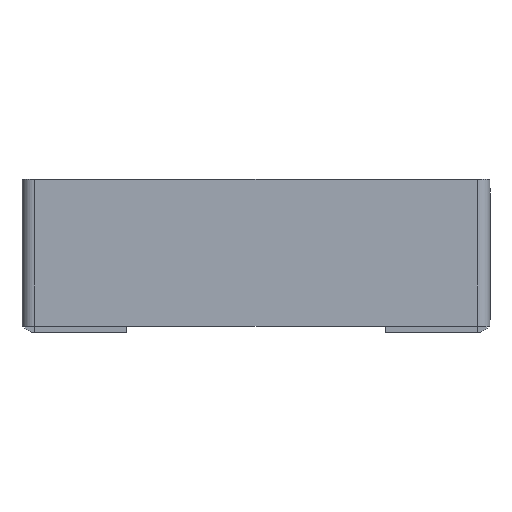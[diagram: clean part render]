
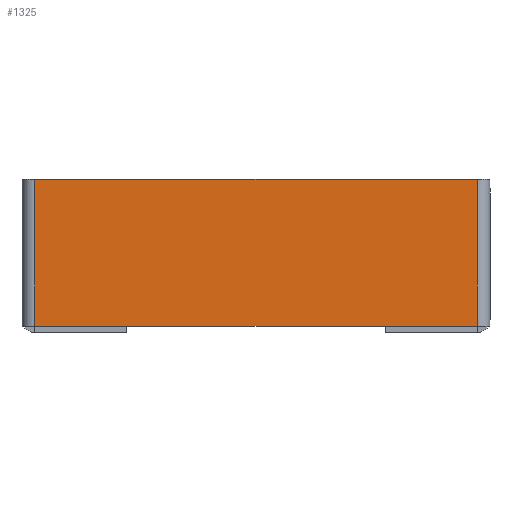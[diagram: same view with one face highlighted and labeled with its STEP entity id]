
A CAD part, front view. The second image highlights one B-rep face of the part: STEP entity #1325.
In plain terms, the highlighted planar face has unit normal (0, -1, 0).
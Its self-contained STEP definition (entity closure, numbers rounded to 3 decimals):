
#133 = VECTOR ( 'NONE', #5694, 1000. ) ;
#385 = DIRECTION ( 'NONE',  ( 0., 0., 1. ) ) ;
#704 = CARTESIAN_POINT ( 'NONE',  ( 87.5, -2.5, -58. ) ) ;
#949 = ORIENTED_EDGE ( 'NONE', *, *, #6922, .T. ) ;
#1174 = VECTOR ( 'NONE', #8027, 1000. ) ;
#1325 = ADVANCED_FACE ( 'NONE', ( #6412 ), #7526, .F. ) ;
#1498 = CARTESIAN_POINT ( 'NONE',  ( -87.5, -2.5, 0. ) ) ;
#1581 = VECTOR ( 'NONE', #7580, 1000. ) ;
#1736 = ORIENTED_EDGE ( 'NONE', *, *, #4518, .T. ) ;
#1739 = CARTESIAN_POINT ( 'NONE',  ( -90., -2.5, -58. ) ) ;
#2019 = CARTESIAN_POINT ( 'NONE',  ( 87.5, -2.5, 0. ) ) ;
#2168 = VERTEX_POINT ( 'NONE', #704 ) ;
#3023 = VECTOR ( 'NONE', #6616, 1000. ) ;
#3197 = CARTESIAN_POINT ( 'NONE',  ( -87.5, -2.5, 0. ) ) ;
#3214 = VERTEX_POINT ( 'NONE', #4897 ) ;
#3215 = LINE ( 'NONE', #1739, #133 ) ;
#3341 = LINE ( 'NONE', #4083, #3023 ) ;
#3375 = VERTEX_POINT ( 'NONE', #2019 ) ;
#4083 = CARTESIAN_POINT ( 'NONE',  ( -90., -2.5, 0. ) ) ;
#4198 = EDGE_CURVE ( 'NONE', #6642, #3375, #3341, .T. ) ;
#4250 = DIRECTION ( 'NONE',  ( 0., 1., 0. ) ) ;
#4305 = CARTESIAN_POINT ( 'NONE',  ( 0., -2.5, 0. ) ) ;
#4518 = EDGE_CURVE ( 'NONE', #2168, #3375, #8106, .T. ) ;
#4897 = CARTESIAN_POINT ( 'NONE',  ( -87.5, -2.5, -58. ) ) ;
#4964 = EDGE_CURVE ( 'NONE', #2168, #3214, #3215, .T. ) ;
#4988 = AXIS2_PLACEMENT_3D ( 'NONE', #4305, #4250, #385 ) ;
#5605 = CARTESIAN_POINT ( 'NONE',  ( 87.5, -2.5, -58. ) ) ;
#5686 = LINE ( 'NONE', #1498, #1174 ) ;
#5694 = DIRECTION ( 'NONE',  ( -1., 0., 0. ) ) ;
#5771 = EDGE_LOOP ( 'NONE', ( #949, #7551, #1736, #5860 ) ) ;
#5860 = ORIENTED_EDGE ( 'NONE', *, *, #4198, .F. ) ;
#6412 = FACE_OUTER_BOUND ( 'NONE', #5771, .T. ) ;
#6616 = DIRECTION ( 'NONE',  ( 1., 0., 0. ) ) ;
#6642 = VERTEX_POINT ( 'NONE', #3197 ) ;
#6922 = EDGE_CURVE ( 'NONE', #6642, #3214, #5686, .T. ) ;
#7526 = PLANE ( 'NONE',  #4988 ) ;
#7551 = ORIENTED_EDGE ( 'NONE', *, *, #4964, .F. ) ;
#7580 = DIRECTION ( 'NONE',  ( 0., 0., 1. ) ) ;
#8027 = DIRECTION ( 'NONE',  ( 0., 0., -1. ) ) ;
#8106 = LINE ( 'NONE', #5605, #1581 ) ;
